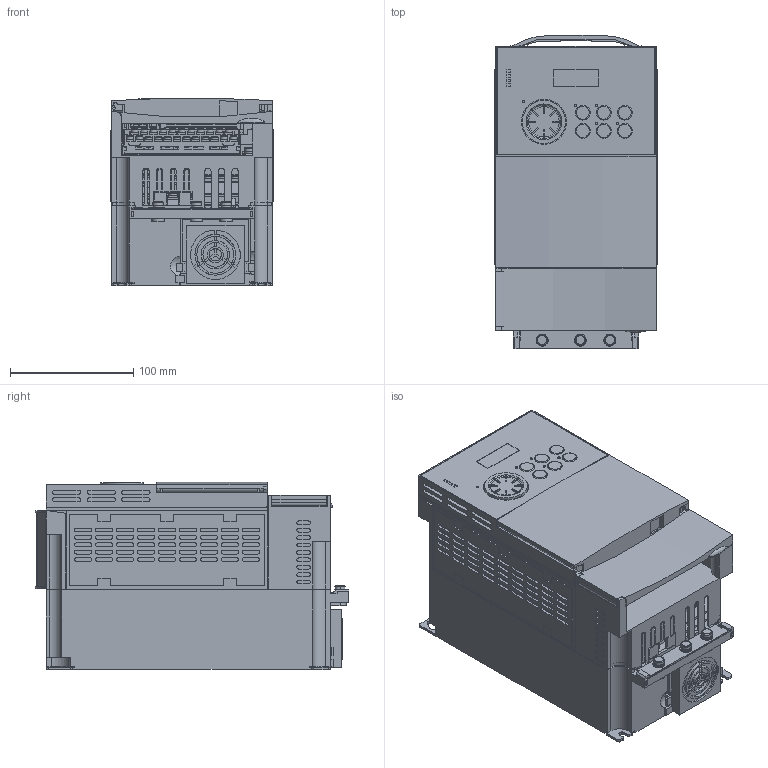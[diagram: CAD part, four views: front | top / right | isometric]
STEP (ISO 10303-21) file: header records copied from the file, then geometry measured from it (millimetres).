
FILE_DESCRIPTION((''),'2;1');
FILE_NAME('VFAS3J_J1_ASM','2019-09-10T10:46:34',('sesa57331'),('Schneider-Electric'),'CREO PARAMETRIC BY PTC INC, 2018300','CREO PARAMETRIC BY PTC INC, 2018300','');
FILE_SCHEMA(('CONFIG_CONTROL_DESIGN'));
Products named in the file (17): VFAS3J_DRIVE_J1; VFAS3J_TOP_COVER_J1; VFAS3J_DISPLAY; VFAS3J_CTR_TERM; VFAS3J_CTR_TERM_SHORT_BAR; VFAS3J_CTR_TERM_SCREW_M3-1; VFAS3J_CTR_TERM_SCREW_M3-2; VFAS3J_CTR_TERM_FL_COVER; VFAS3J_CTR_TERM_ASM; TERM_11MM_M4_SHORT_BAR; TERM_11MM_M4_SCREW; VFAS3J_DISPLAY_COVER; SCREW_M5X12; VFAS3J_POWER_TERM_COVER_J1; VFAS3J_POWER_TERM_TRAP; VFAS3J_POWER_TERM_COVER_J1_ASM; VFAS3J_J1_ASM
Assembly tree (53 placements, depth 3):
  VFAS3J_J1_ASM
    VFAS3J_DRIVE_J1
    VFAS3J_TOP_COVER_J1
    VFAS3J_DISPLAY
    VFAS3J_CTR_TERM_ASM
      VFAS3J_CTR_TERM
      VFAS3J_CTR_TERM_SHORT_BAR  x2
      VFAS3J_CTR_TERM_SCREW_M3-1  x23
      VFAS3J_CTR_TERM_SCREW_M3-2  x3
      VFAS3J_CTR_TERM_FL_COVER
    TERM_11MM_M4_SHORT_BAR
    TERM_11MM_M4_SCREW  x10
    VFAS3J_DISPLAY_COVER
    SCREW_M5X12  x4
    VFAS3J_POWER_TERM_COVER_J1_ASM
      VFAS3J_POWER_TERM_COVER_J1
      VFAS3J_POWER_TERM_TRAP
Bounding box: 132 x 253.94 x 151.78 mm (x, y, z)
Volume: 2189699 mm3; surface area: 587984.4 mm2
Topology: 51 solids, 54 shells, 5041 faces, 13604 edges, 8932 vertices
Faces by surface type: plane 3814, cylinder 1031, torus 124, cone 43, sphere 25, bspline 4
Entity records: 142340 total; most frequent: CARTESIAN_POINT 25525, ORIENTED_EDGE 24668, DIRECTION 23318, EDGE_CURVE 12334, VECTOR 10248, LINE 10248, VERTEX_POINT 8129, AXIS2_PLACEMENT_3D 6535
